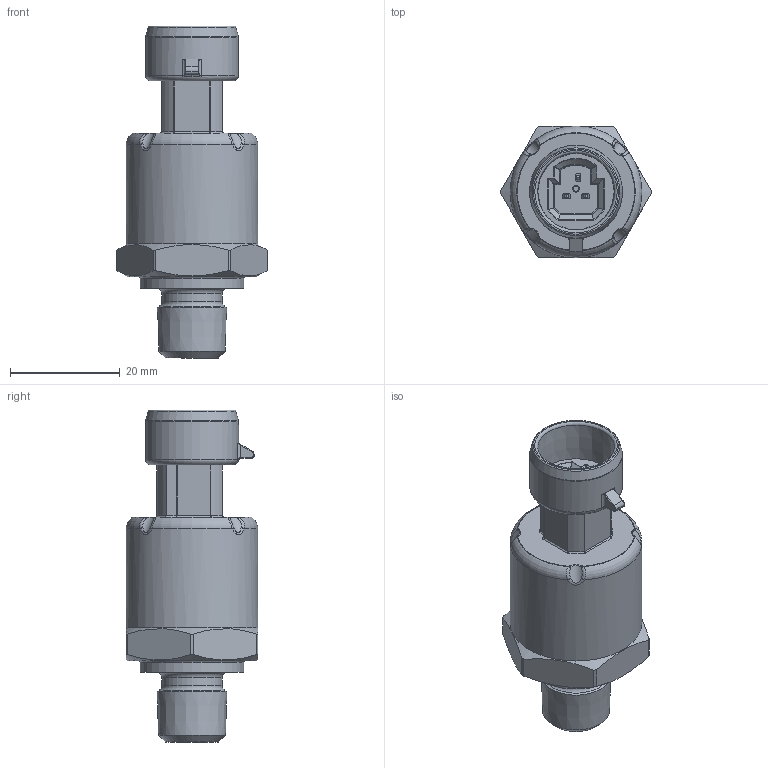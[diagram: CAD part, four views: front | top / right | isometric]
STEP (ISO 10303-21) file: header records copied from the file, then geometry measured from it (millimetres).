
FILE_DESCRIPTION(/* description */ (''),/* implementation_level */ '2;1');
FILE_NAME(/* name */ '560.xxxxBY0000.stp',/* time_stamp */ '2024-06-05T15:33:22+02:00',/* author */ ('uch10269'),/* organization */ (''),/* preprocessor_version */ 'ST-DEVELOPER v19.2',/* originating_system */ 'Autodesk Inventor 2023',/* authorisation */ '');
FILE_SCHEMA (('AUTOMOTIVE_DESIGN { 1 0 10303 214 3 1 1 }'));
Length unit declared in the file: millimetre
Products named in the file (1): Part6
Bounding box: 27.4 x 24 x 60.48 mm (x, y, z)
Volume: 15219.5 mm3; surface area: 5606 mm2
Topology: 1 solids, 1 shells, 328 faces, 812 edges, 492 vertices
Faces by surface type: bspline 101, cylinder 91, plane 80, torus 29, cone 18, sphere 9
Full cylindrical faces by diameter (mm): 4.2 x1, 11 x1, 16.95 x1, 18.8 x1, 24 x1
Entity records: 12045 total; most frequent: CARTESIAN_POINT 4512, ORIENTED_EDGE 1612, DIRECTION 1551, EDGE_CURVE 806, AXIS2_PLACEMENT_3D 652, VERTEX_POINT 492, EDGE_LOOP 340, FACE_OUTER_BOUND 328
